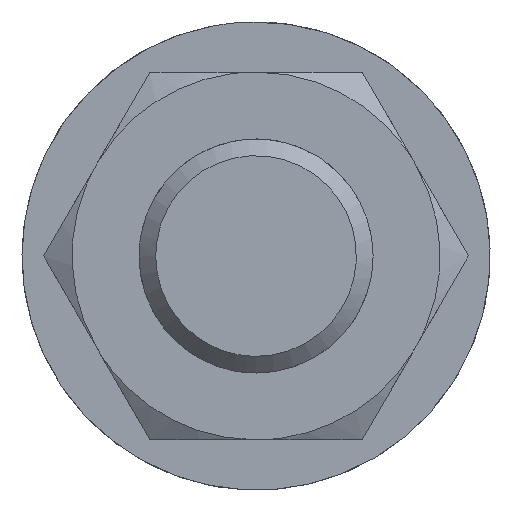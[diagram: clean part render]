
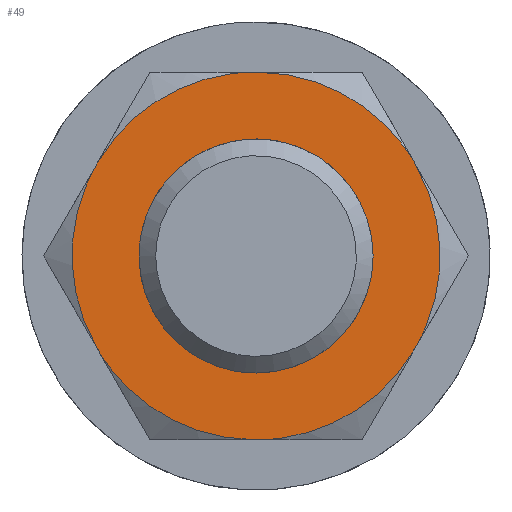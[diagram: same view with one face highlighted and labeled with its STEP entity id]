
A CAD part, left-side view. The second image highlights one B-rep face of the part: STEP entity #49.
In plain terms, the highlighted planar face has unit normal (-1, 0, 0).
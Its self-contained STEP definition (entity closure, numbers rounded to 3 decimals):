
#40=FACE_BOUND('',#138,.T.);
#49=ADVANCED_FACE('',(#92,#40),#663,.T.);
#92=FACE_OUTER_BOUND('',#137,.T.);
#137=EDGE_LOOP('',(#202,#203,#204,#205,#206,#207));
#138=EDGE_LOOP('',(#208,#209));
#202=ORIENTED_EDGE('',*,*,#405,.F.);
#203=ORIENTED_EDGE('',*,*,#407,.F.);
#204=ORIENTED_EDGE('',*,*,#408,.F.);
#205=ORIENTED_EDGE('',*,*,#406,.F.);
#206=ORIENTED_EDGE('',*,*,#404,.F.);
#207=ORIENTED_EDGE('',*,*,#403,.F.);
#208=ORIENTED_EDGE('',*,*,#393,.F.);
#209=ORIENTED_EDGE('',*,*,#391,.F.);
#391=EDGE_CURVE('',#608,#598,#518,.T.);
#393=EDGE_CURVE('',#598,#608,#519,.T.);
#403=EDGE_CURVE('',#602,#603,#527,.T.);
#404=EDGE_CURVE('',#603,#607,#528,.T.);
#405=EDGE_CURVE('',#604,#602,#529,.T.);
#406=EDGE_CURVE('',#607,#606,#530,.T.);
#407=EDGE_CURVE('',#605,#604,#531,.T.);
#408=EDGE_CURVE('',#606,#605,#532,.T.);
#518=(
BOUNDED_CURVE()
B_SPLINE_CURVE(2,(#1166,#1167,#1168,#1169,#1170),.UNSPECIFIED.,.F.,.F.)
B_SPLINE_CURVE_WITH_KNOTS((3,2,3),(21.991,32.987,43.982),
 .UNSPECIFIED.)
CURVE()
GEOMETRIC_REPRESENTATION_ITEM()
RATIONAL_B_SPLINE_CURVE((1.,0.707,1.,0.707,1.))
REPRESENTATION_ITEM('')
);
#519=(
BOUNDED_CURVE()
B_SPLINE_CURVE(2,(#1173,#1174,#1175,#1176,#1177),.UNSPECIFIED.,.F.,.F.)
B_SPLINE_CURVE_WITH_KNOTS((3,2,3),(0.,10.996,21.991),
 .UNSPECIFIED.)
CURVE()
GEOMETRIC_REPRESENTATION_ITEM()
RATIONAL_B_SPLINE_CURVE((1.,0.707,1.,0.707,1.))
REPRESENTATION_ITEM('')
);
#527=(
BOUNDED_CURVE()
B_SPLINE_CURVE(2,(#1215,#1216,#1217),.UNSPECIFIED.,.F.,.F.)
B_SPLINE_CURVE_WITH_KNOTS((3,3),(0.,11.519),.UNSPECIFIED.)
CURVE()
GEOMETRIC_REPRESENTATION_ITEM()
RATIONAL_B_SPLINE_CURVE((1.,0.866,1.))
REPRESENTATION_ITEM('')
);
#528=(
BOUNDED_CURVE()
B_SPLINE_CURVE(2,(#1218,#1219,#1220),.UNSPECIFIED.,.F.,.F.)
B_SPLINE_CURVE_WITH_KNOTS((3,3),(0.,11.519),.UNSPECIFIED.)
CURVE()
GEOMETRIC_REPRESENTATION_ITEM()
RATIONAL_B_SPLINE_CURVE((1.,0.866,1.))
REPRESENTATION_ITEM('')
);
#529=(
BOUNDED_CURVE()
B_SPLINE_CURVE(2,(#1221,#1222,#1223),.UNSPECIFIED.,.F.,.F.)
B_SPLINE_CURVE_WITH_KNOTS((3,3),(0.,11.519),.UNSPECIFIED.)
CURVE()
GEOMETRIC_REPRESENTATION_ITEM()
RATIONAL_B_SPLINE_CURVE((1.,0.866,1.))
REPRESENTATION_ITEM('')
);
#530=(
BOUNDED_CURVE()
B_SPLINE_CURVE(2,(#1224,#1225,#1226),.UNSPECIFIED.,.F.,.F.)
B_SPLINE_CURVE_WITH_KNOTS((3,3),(0.,11.519),.UNSPECIFIED.)
CURVE()
GEOMETRIC_REPRESENTATION_ITEM()
RATIONAL_B_SPLINE_CURVE((1.,0.866,1.))
REPRESENTATION_ITEM('')
);
#531=(
BOUNDED_CURVE()
B_SPLINE_CURVE(2,(#1227,#1228,#1229),.UNSPECIFIED.,.F.,.F.)
B_SPLINE_CURVE_WITH_KNOTS((3,3),(0.,11.519),.UNSPECIFIED.)
CURVE()
GEOMETRIC_REPRESENTATION_ITEM()
RATIONAL_B_SPLINE_CURVE((1.,0.866,1.))
REPRESENTATION_ITEM('')
);
#532=(
BOUNDED_CURVE()
B_SPLINE_CURVE(2,(#1230,#1231,#1232),.UNSPECIFIED.,.F.,.F.)
B_SPLINE_CURVE_WITH_KNOTS((3,3),(0.,11.519),.UNSPECIFIED.)
CURVE()
GEOMETRIC_REPRESENTATION_ITEM()
RATIONAL_B_SPLINE_CURVE((1.,0.866,1.))
REPRESENTATION_ITEM('')
);
#598=VERTEX_POINT('',#1134);
#602=VERTEX_POINT('',#1138);
#603=VERTEX_POINT('',#1139);
#604=VERTEX_POINT('',#1140);
#605=VERTEX_POINT('',#1141);
#606=VERTEX_POINT('',#1142);
#607=VERTEX_POINT('',#1143);
#608=VERTEX_POINT('',#1144);
#663=PLANE('',#777);
#777=AXIS2_PLACEMENT_3D('',#891,#803,$);
#803=DIRECTION('',(-1.,0.,0.));
#891=CARTESIAN_POINT('',(18.833,-15.362,13.32));
#1134=CARTESIAN_POINT('',(18.833,0.,-7.));
#1138=CARTESIAN_POINT('',(18.833,-9.526,5.5));
#1139=CARTESIAN_POINT('',(18.833,-9.526,-5.5));
#1140=CARTESIAN_POINT('',(18.833,0.,11.));
#1141=CARTESIAN_POINT('',(18.833,9.526,5.5));
#1142=CARTESIAN_POINT('',(18.833,9.526,-5.5));
#1143=CARTESIAN_POINT('',(18.833,0.,-11.));
#1144=CARTESIAN_POINT('',(18.833,0.,7.));
#1166=CARTESIAN_POINT('',(18.833,0.,7.));
#1167=CARTESIAN_POINT('',(18.833,7.,7.));
#1168=CARTESIAN_POINT('',(18.833,7.,0.));
#1169=CARTESIAN_POINT('',(18.833,7.,-7.));
#1170=CARTESIAN_POINT('',(18.833,0.,-7.));
#1173=CARTESIAN_POINT('',(18.833,0.,-7.));
#1174=CARTESIAN_POINT('',(18.833,-7.,-7.));
#1175=CARTESIAN_POINT('',(18.833,-7.,0.));
#1176=CARTESIAN_POINT('',(18.833,-7.,7.));
#1177=CARTESIAN_POINT('',(18.833,0.,7.));
#1215=CARTESIAN_POINT('',(18.833,-9.526,5.5));
#1216=CARTESIAN_POINT('',(18.833,-12.702,0.));
#1217=CARTESIAN_POINT('',(18.833,-9.526,-5.5));
#1218=CARTESIAN_POINT('',(18.833,-9.526,-5.5));
#1219=CARTESIAN_POINT('',(18.833,-6.351,-11.));
#1220=CARTESIAN_POINT('',(18.833,0.,-11.));
#1221=CARTESIAN_POINT('',(18.833,0.,11.));
#1222=CARTESIAN_POINT('',(18.833,-6.351,11.));
#1223=CARTESIAN_POINT('',(18.833,-9.526,5.5));
#1224=CARTESIAN_POINT('',(18.833,0.,-11.));
#1225=CARTESIAN_POINT('',(18.833,6.351,-11.));
#1226=CARTESIAN_POINT('',(18.833,9.526,-5.5));
#1227=CARTESIAN_POINT('',(18.833,9.526,5.5));
#1228=CARTESIAN_POINT('',(18.833,6.351,11.));
#1229=CARTESIAN_POINT('',(18.833,0.,11.));
#1230=CARTESIAN_POINT('',(18.833,9.526,-5.5));
#1231=CARTESIAN_POINT('',(18.833,12.702,0.));
#1232=CARTESIAN_POINT('',(18.833,9.526,5.5));
